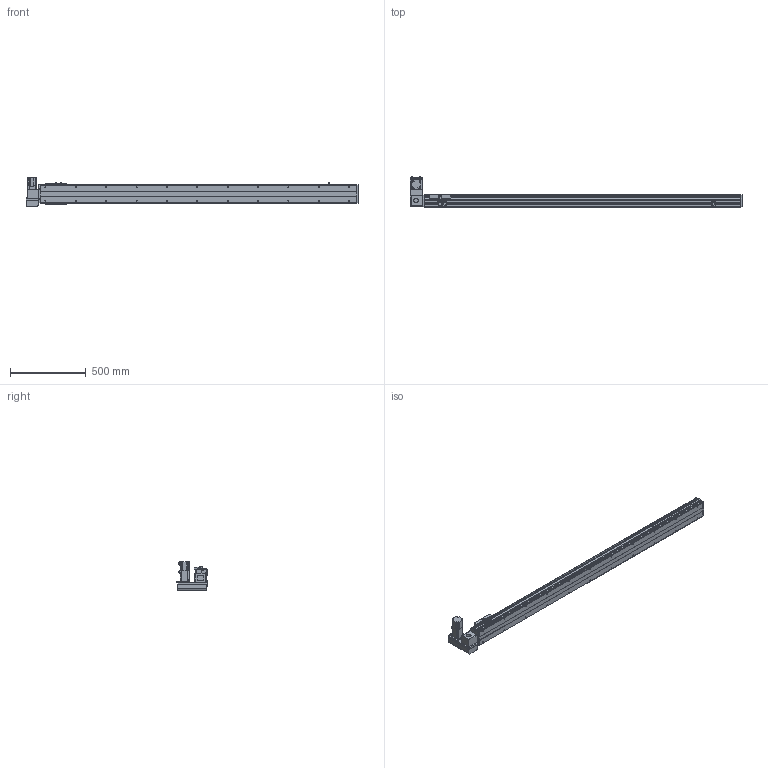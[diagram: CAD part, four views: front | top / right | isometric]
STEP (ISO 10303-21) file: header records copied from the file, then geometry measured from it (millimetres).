
FILE_DESCRIPTION(/* description */ ('STEP AP214'),/* implementation_level */ '2;1');
FILE_NAME(/* name */ 'PBS120-P40-S1800-LU-T40-C1-N(0)',/* time_stamp */ '2022-06-06T02:33:05+02:00',/* author */ ('License CC BY-ND 4.0'),/* organization */ ('CADENAS'),/* preprocessor_version */ 'ST-DEVELOPER v18.102',/* originating_system */ 'PARTsolutions',/* authorisation */ ' ');
FILE_SCHEMA (('AUTOMOTIVE_DESIGN {1 0 10303 214 3 1 1}'));
Length unit declared in the file: millimetre
Products named in the file (7): PBS120-P40-S1800-LU-T40-C1-N(0); PBS120_sensor; PBS120_plant; PBS120_sliser; T40-p1; PBS120T-LU_motors; PBS120-S1800()_body
Assembly tree (8 placements, depth 2):
  PBS120-P40-S1800-LU-T40-C1-N(0)
    PBS120_sensor  x3
    PBS120_plant
    PBS120_sliser
    T40-p1
    PBS120T-LU_motors
    PBS120-S1800()_body
Bounding box: 2186 x 198 x 189.7 mm (x, y, z)
Volume: 8565363 mm3; surface area: 1738186 mm2
Topology: 8 solids, 8 shells, 846 faces, 2186 edges, 1405 vertices
Faces by surface type: plane 555, cylinder 235, cone 54, torus 2
Full cylindrical faces by diameter (mm): 2.459 x6, 3.242 x4, 4 x2, 4.134 x4, 4.5 x10, 4.917 x26, 5.5 x11, 6 x2, 6.6 x1, 7 x2, 8.5 x4, 9 x4, 12 x1, 14 x1, 30 x2, 40 x1, 50 x2
Entity records: 21954 total; most frequent: DIRECTION 3812, CARTESIAN_POINT 3731, ORIENTED_EDGE 3538, EDGE_CURVE 1769, AXIS2_PLACEMENT_3D 1292, LINE 1228, VECTOR 1228, VERTEX_POINT 1211
